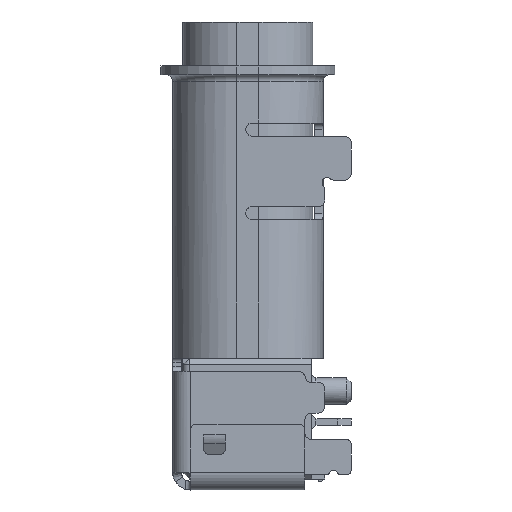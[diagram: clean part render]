
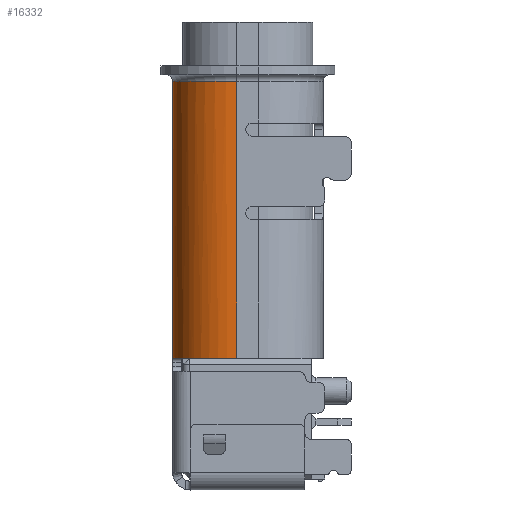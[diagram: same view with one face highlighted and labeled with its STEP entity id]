
A CAD part, left-side view. The second image highlights one B-rep face of the part: STEP entity #16332.
In plain terms, the highlighted cylindrical face has radius 1.46 mm (diameter 2.92 mm), a partial arc.
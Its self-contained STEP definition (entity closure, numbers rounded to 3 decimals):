
#152=DIRECTION('',(0.,0.,1.));
#153=VECTOR('',#152,6.3);
#154=CARTESIAN_POINT('',(-4.6,2.,-4.5));
#155=LINE('',#154,#153);
#248=CARTESIAN_POINT('',(-3.14,2.,-4.5));
#249=DIRECTION('',(0.,0.,1.));
#250=DIRECTION('',(-0.673,0.74,0.));
#251=AXIS2_PLACEMENT_3D('',#248,#249,#250);
#326=CARTESIAN_POINT('',(-3.24,3.457,-4.5));
#327=CARTESIAN_POINT('',(-3.229,3.457,-4.5));
#328=CARTESIAN_POINT('',(-3.209,3.458,-4.503));
#329=CARTESIAN_POINT('',(-3.18,3.46,-4.518));
#330=CARTESIAN_POINT('',(-3.158,3.46,-4.54));
#331=CARTESIAN_POINT('',(-3.143,3.46,-4.569));
#332=CARTESIAN_POINT('',(-3.14,3.46,-4.589));
#333=CARTESIAN_POINT('',(-3.14,3.46,-4.6));
#335=DIRECTION('',(0.,0.,1.));
#336=VECTOR('',#335,6.4);
#337=CARTESIAN_POINT('',(-3.14,3.46,-4.6));
#338=LINE('',#337,#336);
#395=CARTESIAN_POINT('',(-3.14,2.,-4.5));
#396=DIRECTION('',(0.,0.,1.));
#397=DIRECTION('',(-0.74,0.673,0.));
#398=AXIS2_PLACEMENT_3D('',#395,#396,#397);
#409=CARTESIAN_POINT('',(-3.14,2.,-4.5));
#410=DIRECTION('',(0.,0.,1.));
#411=DIRECTION('',(-0.068,0.998,0.));
#412=AXIS2_PLACEMENT_3D('',#409,#410,#411);
#1171=CARTESIAN_POINT('',(-3.14,2.,1.8));
#1172=DIRECTION('',(0.,0.,-1.));
#1173=DIRECTION('',(-1.,0.,0.));
#1174=AXIS2_PLACEMENT_3D('',#1171,#1172,#1173);
#13758=CARTESIAN_POINT('',(-3.14,3.46,-4.6));
#13760=VERTEX_POINT('',#13758);
#13843=CARTESIAN_POINT('',(-3.14,3.46,1.8));
#13844=VERTEX_POINT('',#13843);
#14174=VERTEX_POINT('',#326);
#14177=CARTESIAN_POINT('',(-4.6,2.,-4.5));
#14178=CARTESIAN_POINT('',(-4.6,2.,1.8));
#14179=VERTEX_POINT('',#14177);
#14180=VERTEX_POINT('',#14178);
#15661=CARTESIAN_POINT('',(-4.122,3.08,-4.5));
#15662=CARTESIAN_POINT('',(-4.22,2.982,-4.5));
#15663=VERTEX_POINT('',#15661);
#15664=VERTEX_POINT('',#15662);
#16313=CARTESIAN_POINT('',(-3.14,2.,-4.728));
#16314=DIRECTION('',(0.,0.,1.));
#16315=DIRECTION('',(0.,1.,0.));
#16316=AXIS2_PLACEMENT_3D('',#16313,#16314,#16315);
#16317=CYLINDRICAL_SURFACE('',#16316,1.46);
#16318=ORIENTED_EDGE('',*,*,#16227,.F.);
#16320=ORIENTED_EDGE('',*,*,#16319,.F.);
#16322=ORIENTED_EDGE('',*,*,#16321,.T.);
#16324=ORIENTED_EDGE('',*,*,#16323,.T.);
#16326=ORIENTED_EDGE('',*,*,#16325,.F.);
#16327=ORIENTED_EDGE('',*,*,#16050,.F.);
#16329=ORIENTED_EDGE('',*,*,#16328,.F.);
#16330=EDGE_LOOP('',(#16318,#16320,#16322,#16324,#16326,#16327,#16329));
#16331=FACE_OUTER_BOUND('',#16330,.F.);
#16332=ADVANCED_FACE('',(#16331),#16317,.T.);
#252=CIRCLE('',#251,1.46);
#334=B_SPLINE_CURVE_WITH_KNOTS('',3,(#326,#327,#328,#329,#330,#331,#332,#333),
.UNSPECIFIED.,.F.,.F.,(4,1,1,1,1,4),(0.,0.2,0.4,0.6,0.8,1.),
.UNSPECIFIED.);
#399=CIRCLE('',#398,1.46);
#413=CIRCLE('',#412,1.46);
#1175=CIRCLE('',#1174,1.46);
#16050=EDGE_CURVE('',#14179,#14180,#155,.T.);
#16227=EDGE_CURVE('',#15663,#15664,#252,.T.);
#16319=EDGE_CURVE('',#14174,#15663,#413,.T.);
#16321=EDGE_CURVE('',#14174,#13760,#334,.T.);
#16323=EDGE_CURVE('',#13760,#13844,#338,.T.);
#16325=EDGE_CURVE('',#14180,#13844,#1175,.T.);
#16328=EDGE_CURVE('',#15664,#14179,#399,.T.);
